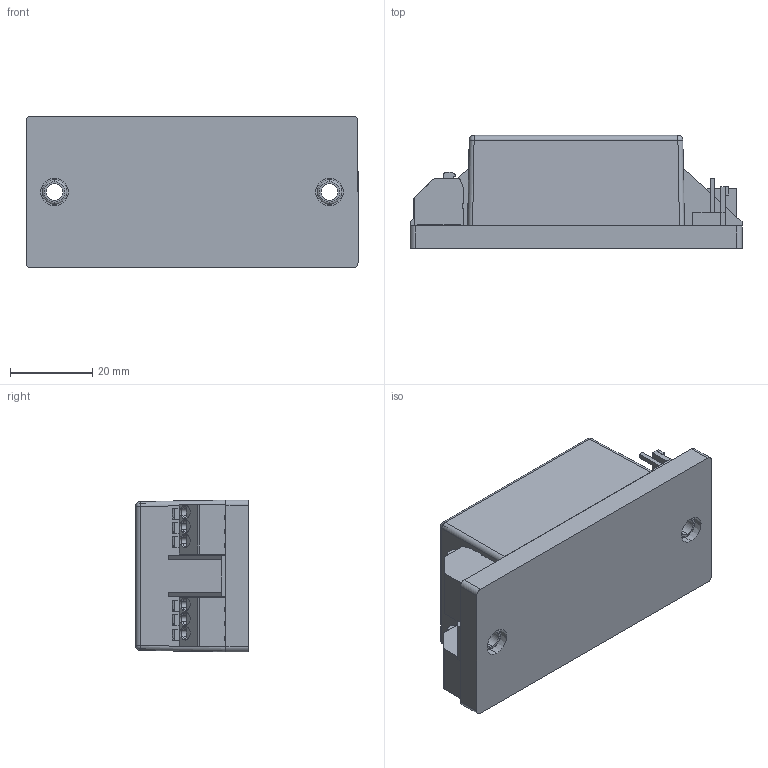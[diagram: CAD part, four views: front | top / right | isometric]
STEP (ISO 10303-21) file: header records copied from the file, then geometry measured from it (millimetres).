
FILE_DESCRIPTION (( 'STEP AP214' ), '1' );
FILE_NAME ('D-SE08.STEP', '2015-08-25T09:15:09', ( '' ), ( '' ), 'SwSTEP 2.0', 'SolidWorks 2015', '' );
FILE_SCHEMA (( 'AUTOMOTIVE_DESIGN' ));
Length unit declared in the file: millimetre
Products named in the file (38): Cylinder; 767415456; 638320368; Extruded_11; Extruded_3; 767415584; 767418272; Extruded_10; Extruded_2; 638313328; 767415968; Extruded_9; Extruded; X4Dummy-SE08; BoardDummy-SE08; 636976064; Unterteil; Extruded_8; 767433376; D-SE08; Extruded_7; Aufkleber-48x33-SE08; 767409440; Oberteil; Extruded_6; Dummy-SE08; 767409824; X2Dummy-SE08; Extruded_5; X1Dummy-SE08; 769058000; 250-203; Extruded_4; X3Dummy-SE08; X5Dummy-SE08; 767432992; 642540368; Extruded_12
Assembly tree (44 placements, depth 5):
  D-SE08
    Unterteil
    Dummy-SE08
      BoardDummy-SE08
      X5Dummy-SE08
        767415968
          Extruded
        767418272
          Extruded_2
        638320368
          Extruded_3
        642540368  x2
          Cylinder
      X4Dummy-SE08
        769058000  x2
          Extruded_4
        767409824  x2
          Extruded_5
        767409440  x2
          Extruded_6
        767433376
          Extruded_7
        636976064  x2
          Extruded_8
      X3Dummy-SE08
        638313328  x2
          Extruded_9
        767415584
          Extruded_10
        767415456
          Extruded_11
        767432992
          Extruded_12
      X1Dummy-SE08
        250-203
      X2Dummy-SE08
        250-203
    Oberteil
    Aufkleber-48x33-SE08
Bounding box: 80.9 x 27.7 x 37 mm (x, y, z)
Volume: 16897.6 mm3; surface area: 33822.6 mm2
Topology: 27 solids, 27 shells, 604 faces, 1536 edges, 1002 vertices
Faces by surface type: plane 424, cylinder 128, cone 40, torus 8, sphere 4
Entity records: 15849 total; most frequent: CARTESIAN_POINT 2437, DIRECTION 2237, ORIENTED_EDGE 2134, EDGE_CURVE 1067, VECTOR 767, LINE 767, AXIS2_PLACEMENT_3D 735, VERTEX_POINT 695
